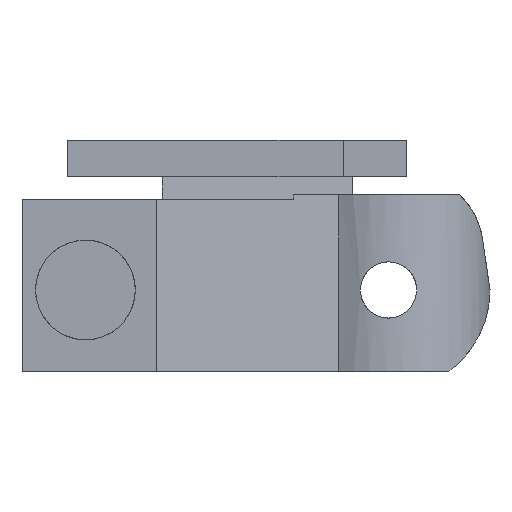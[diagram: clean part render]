
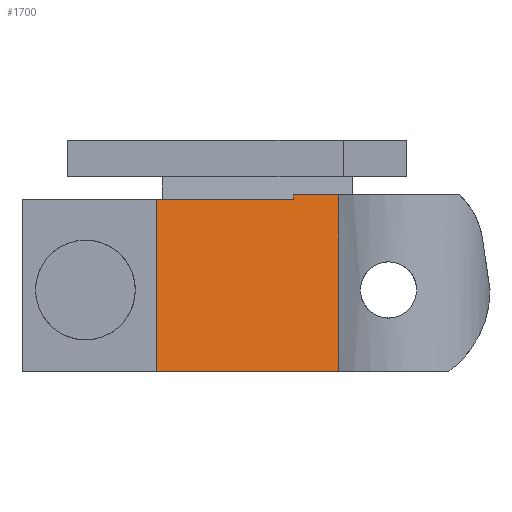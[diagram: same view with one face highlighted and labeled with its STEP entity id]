
A CAD part, front view. The second image highlights one B-rep face of the part: STEP entity #1700.
In plain terms, the highlighted planar face has unit normal (0.255, -0.967, 0).
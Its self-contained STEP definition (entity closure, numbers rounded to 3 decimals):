
#1615 = VERTEX_POINT ( 'NONE', #1983 ) ;
#1637 = VERTEX_POINT ( 'NONE', #4150 ) ;
#1669 = VERTEX_POINT ( 'NONE', #4549 ) ;
#1670 = ORIENTED_EDGE ( 'NONE', *, *, #1738, .T. ) ;
#1686 = ORIENTED_EDGE ( 'NONE', *, *, #1740, .T. ) ;
#1687 = VERTEX_POINT ( 'NONE', #4961 ) ;
#1691 = EDGE_CURVE ( 'NONE', #1687, #1729, #4907, .T. ) ;
#1695 = ORIENTED_EDGE ( 'NONE', *, *, #1706, .T. ) ;
#1700 = ADVANCED_FACE ( 'NONE', ( #4651 ), #4634, .T. ) ;
#1706 = EDGE_CURVE ( 'NONE', #1669, #1687, #4619, .T. ) ;
#1717 = EDGE_CURVE ( 'NONE', #1747, #1637, #4936, .T. ) ;
#1718 = ORIENTED_EDGE ( 'NONE', *, *, #1717, .T. ) ;
#1719 = ORIENTED_EDGE ( 'NONE', *, *, #1732, .T. ) ;
#1729 = VERTEX_POINT ( 'NONE', #3158 ) ;
#1732 = EDGE_CURVE ( 'NONE', #1729, #1747, #3223, .T. ) ;
#1738 = EDGE_CURVE ( 'NONE', #1637, #1615, #3254, .T. ) ;
#1740 = EDGE_CURVE ( 'NONE', #1615, #1669, #3240, .T. ) ;
#1745 = EDGE_LOOP ( 'NONE', ( #1670, #1686, #1695, #4369, #1719, #1718 ) ) ;
#1747 = VERTEX_POINT ( 'NONE', #3296 ) ;
#1983 = CARTESIAN_POINT ( 'NONE',  ( 4.175, -11.055, 36.5 ) ) ;
#3158 = CARTESIAN_POINT ( 'NONE',  ( -11.025, -15.07, 17. ) ) ;
#3222 = CARTESIAN_POINT ( 'NONE',  ( -11.025, -15.07, 17. ) ) ;
#3223 = LINE ( 'NONE', #3222, #3253 ) ;
#3226 = CARTESIAN_POINT ( 'NONE',  ( -11.025, -15.07, 36.5 ) ) ;
#3237 = DIRECTION ( 'NONE',  ( 0., 0., -1. ) ) ;
#3238 = VECTOR ( 'NONE', #3237, 1000. ) ;
#3239 = CARTESIAN_POINT ( 'NONE',  ( 4.175, -11.055, 36.5 ) ) ;
#3240 = LINE ( 'NONE', #3239, #3238 ) ;
#3245 = DIRECTION ( 'NONE',  ( -0.967, -0.255, 0. ) ) ;
#3246 = VECTOR ( 'NONE', #3245, 1000. ) ;
#3252 = DIRECTION ( 'NONE',  ( 0.967, 0.255, 0. ) ) ;
#3253 = VECTOR ( 'NONE', #3252, 1000. ) ;
#3254 = LINE ( 'NONE', #3226, #3246 ) ;
#3296 = CARTESIAN_POINT ( 'NONE',  ( 9.113, -9.75, 17. ) ) ;
#4150 = CARTESIAN_POINT ( 'NONE',  ( 9.113, -9.75, 36.5 ) ) ;
#4369 = ORIENTED_EDGE ( 'NONE', *, *, #1691, .T. ) ;
#4549 = CARTESIAN_POINT ( 'NONE',  ( 4.175, -11.055, 36. ) ) ;
#4619 = LINE ( 'NONE', #4628, #4641 ) ;
#4628 = CARTESIAN_POINT ( 'NONE',  ( -11.025, -15.07, 36. ) ) ;
#4632 = DIRECTION ( 'NONE',  ( 0.255, -0.967, 0. ) ) ;
#4634 = PLANE ( 'NONE',  #4661 ) ;
#4637 = DIRECTION ( 'NONE',  ( 0.967, 0.255, 0. ) ) ;
#4641 = VECTOR ( 'NONE', #4656, 1000. ) ;
#4646 = CARTESIAN_POINT ( 'NONE',  ( -11.025, -15.07, 36.5 ) ) ;
#4651 = FACE_OUTER_BOUND ( 'NONE', #1745, .T. ) ;
#4656 = DIRECTION ( 'NONE',  ( -0.967, -0.255, 0. ) ) ;
#4661 = AXIS2_PLACEMENT_3D ( 'NONE', #4646, #4632, #4637 ) ;
#4906 = CARTESIAN_POINT ( 'NONE',  ( -11.025, -15.07, 36.5 ) ) ;
#4907 = LINE ( 'NONE', #4906, #4921 ) ;
#4920 = DIRECTION ( 'NONE',  ( 0., 0., -1. ) ) ;
#4921 = VECTOR ( 'NONE', #4920, 1000. ) ;
#4930 = DIRECTION ( 'NONE',  ( 0., 0., 1. ) ) ;
#4933 = CARTESIAN_POINT ( 'NONE',  ( 9.113, -9.75, 36.5 ) ) ;
#4935 = VECTOR ( 'NONE', #4930, 1000. ) ;
#4936 = LINE ( 'NONE', #4933, #4935 ) ;
#4961 = CARTESIAN_POINT ( 'NONE',  ( -11.025, -15.07, 36. ) ) ;
